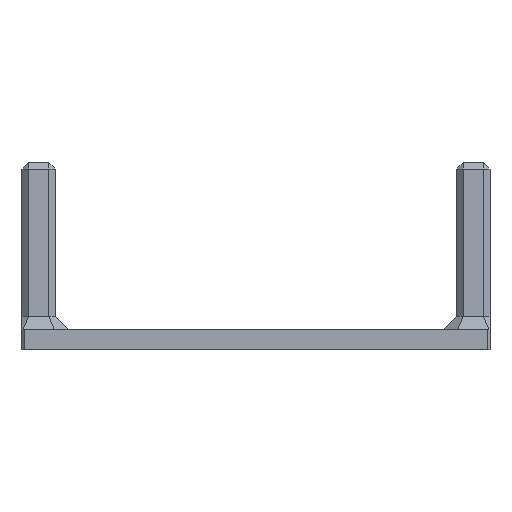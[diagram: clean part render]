
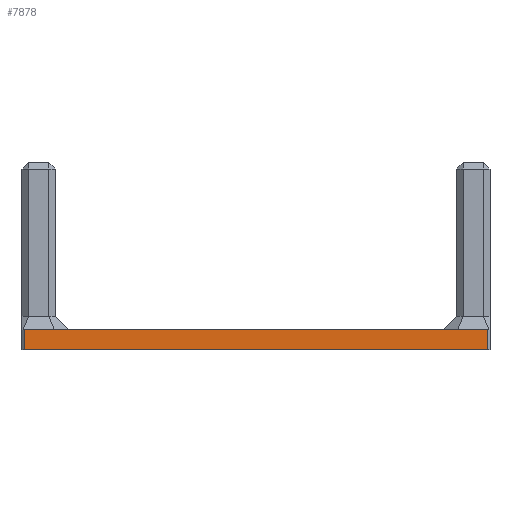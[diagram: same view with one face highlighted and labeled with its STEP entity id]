
A CAD part, left-side view. The second image highlights one B-rep face of the part: STEP entity #7878.
In plain terms, the highlighted planar face has unit normal (-1, 0, 0).
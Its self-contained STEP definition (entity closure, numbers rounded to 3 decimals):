
#376 = CARTESIAN_POINT ( 'NONE',  ( 0., 69.7, 0. ) ) ;
#1174 = DIRECTION ( 'NONE',  ( -1., 0., 0. ) ) ;
#2602 = DIRECTION ( 'NONE',  ( 0., 0., -1. ) ) ;
#2771 = CARTESIAN_POINT ( 'NONE',  ( 0., 0., 3. ) ) ;
#2875 = VERTEX_POINT ( 'NONE', #4009 ) ;
#3863 = DIRECTION ( 'NONE',  ( 0., 0., 1. ) ) ;
#3952 = VERTEX_POINT ( 'NONE', #12152 ) ;
#4009 = CARTESIAN_POINT ( 'NONE',  ( 0., 0.3, 0. ) ) ;
#4165 = FACE_OUTER_BOUND ( 'NONE', #16420, .T. ) ;
#4385 = DIRECTION ( 'NONE',  ( 0., 1., 0. ) ) ;
#4512 = AXIS2_PLACEMENT_3D ( 'NONE', #2771, #1174, #6884 ) ;
#4824 = EDGE_CURVE ( 'NONE', #2875, #15595, #13766, .T. ) ;
#6728 = DIRECTION ( 'NONE',  ( 0., 1., 0. ) ) ;
#6760 = LINE ( 'NONE', #12481, #16549 ) ;
#6884 = DIRECTION ( 'NONE',  ( 0., 0., 1. ) ) ;
#7007 = CARTESIAN_POINT ( 'NONE',  ( 0., 0., 3. ) ) ;
#7319 = EDGE_CURVE ( 'NONE', #2875, #8288, #6760, .T. ) ;
#7878 = ADVANCED_FACE ( 'NONE', ( #4165 ), #15603, .T. ) ;
#7958 = CARTESIAN_POINT ( 'NONE',  ( 0., 0., 0. ) ) ;
#8288 = VERTEX_POINT ( 'NONE', #9258 ) ;
#8547 = EDGE_CURVE ( 'NONE', #8288, #3952, #11501, .T. ) ;
#9152 = ORIENTED_EDGE ( 'NONE', *, *, #14900, .T. ) ;
#9258 = CARTESIAN_POINT ( 'NONE',  ( 0., 0.3, 3. ) ) ;
#9528 = LINE ( 'NONE', #9797, #12425 ) ;
#9797 = CARTESIAN_POINT ( 'NONE',  ( 0., 69.7, 3. ) ) ;
#11315 = ORIENTED_EDGE ( 'NONE', *, *, #4824, .F. ) ;
#11501 = LINE ( 'NONE', #7007, #11754 ) ;
#11754 = VECTOR ( 'NONE', #4385, 1000. ) ;
#12152 = CARTESIAN_POINT ( 'NONE',  ( 0., 69.7, 3. ) ) ;
#12425 = VECTOR ( 'NONE', #2602, 1000. ) ;
#12481 = CARTESIAN_POINT ( 'NONE',  ( 0., 0.3, 3. ) ) ;
#13766 = LINE ( 'NONE', #7958, #15257 ) ;
#14828 = ORIENTED_EDGE ( 'NONE', *, *, #8547, .T. ) ;
#14900 = EDGE_CURVE ( 'NONE', #3952, #15595, #9528, .T. ) ;
#15257 = VECTOR ( 'NONE', #6728, 1000. ) ;
#15595 = VERTEX_POINT ( 'NONE', #376 ) ;
#15603 = PLANE ( 'NONE',  #4512 ) ;
#16420 = EDGE_LOOP ( 'NONE', ( #11315, #16923, #14828, #9152 ) ) ;
#16549 = VECTOR ( 'NONE', #3863, 1000. ) ;
#16923 = ORIENTED_EDGE ( 'NONE', *, *, #7319, .T. ) ;
